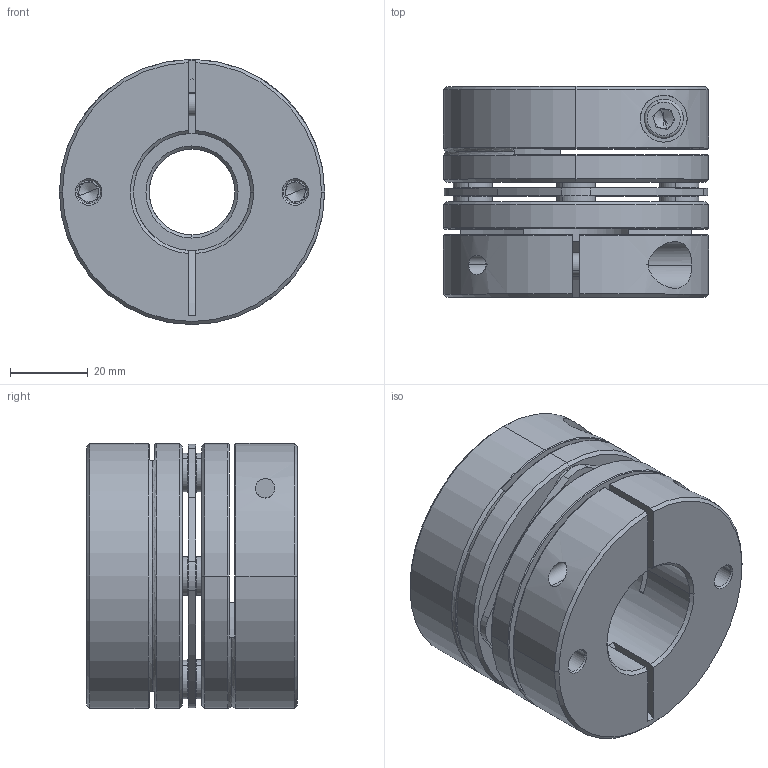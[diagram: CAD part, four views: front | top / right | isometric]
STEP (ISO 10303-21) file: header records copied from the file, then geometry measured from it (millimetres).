
FILE_DESCRIPTION (( 'STEP AP203' ), '1' );
FILE_NAME ('LD1-D68-22-30.STEP', '2021-10-26T07:59:57', ( '' ), ( '' ), 'SwSTEP 2.0', 'SolidWorks 2018', '' );
FILE_SCHEMA (( 'CONFIG_CONTROL_DESIGN' ));
Length unit declared in the file: millimetre
Products named in the file (2): 錨璃101^LD1-D68; LD1-D68-22-30
Assembly tree (1 placements, depth 2):
  LD1-D68-22-30
    錨璃101^LD1-D68
Bounding box: 68 x 54 x 68 mm (x, y, z)
Volume: 140557.8 mm3; surface area: 45850 mm2
Topology: 1 solids, 15 shells, 441 faces, 1047 edges, 642 vertices
Faces by surface type: cylinder 161, plane 136, cone 122, torus 22
Entity records: 13321 total; most frequent: CARTESIAN_POINT 2590, DIRECTION 2405, ORIENTED_EDGE 2062, EDGE_CURVE 1031, AXIS2_PLACEMENT_3D 977, VERTEX_POINT 642, CIRCLE 532, EDGE_LOOP 521
